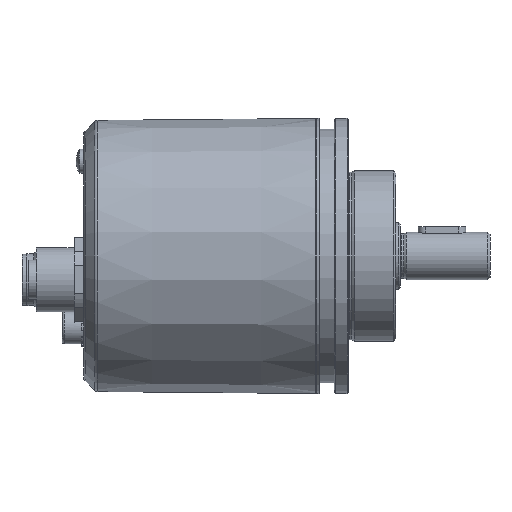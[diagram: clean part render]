
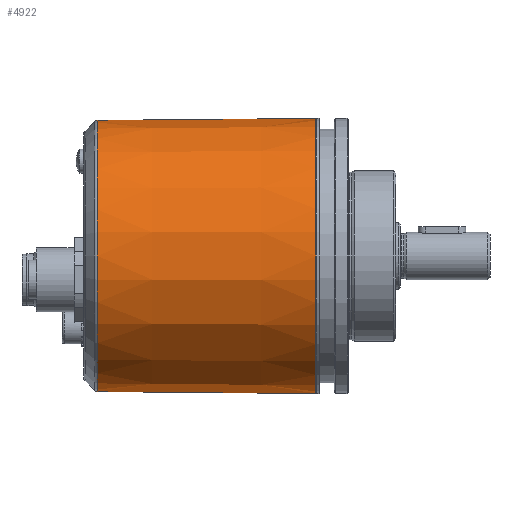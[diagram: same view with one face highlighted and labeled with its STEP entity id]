
A CAD part, left-side view. The second image highlights one B-rep face of the part: STEP entity #4922.
In plain terms, the highlighted conical face has half-angle 0.5 degrees and reference radius 29 mm.
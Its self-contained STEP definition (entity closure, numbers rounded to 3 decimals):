
#187 = LINE ( 'NONE', #5978, #2274 ) ;
#328 = CARTESIAN_POINT ( 'NONE',  ( 0., 36.7, 0. ) ) ;
#565 = CARTESIAN_POINT ( 'NONE',  ( 0., 36.7, 0. ) ) ;
#1460 = EDGE_CURVE ( 'NONE', #6102, #6702, #187, .T. ) ;
#1556 = CIRCLE ( 'NONE', #4943, 29. ) ;
#1782 = VERTEX_POINT ( 'NONE', #2192 ) ;
#2192 = CARTESIAN_POINT ( 'NONE',  ( 0., 82.786, -28.598 ) ) ;
#2274 = VECTOR ( 'NONE', #2824, 1000. ) ;
#2603 = CARTESIAN_POINT ( 'NONE',  ( 0., 36.7, 29. ) ) ;
#2806 = DIRECTION ( 'NONE',  ( 0., -1., 0. ) ) ;
#2824 = DIRECTION ( 'NONE',  ( 0., -1., 0.009 ) ) ;
#2903 = VERTEX_POINT ( 'NONE', #8141 ) ;
#2904 = EDGE_CURVE ( 'NONE', #1782, #2903, #4892, .T. ) ;
#3209 = AXIS2_PLACEMENT_3D ( 'NONE', #328, #2806, #6732 ) ;
#3413 = CIRCLE ( 'NONE', #5586, 28.598 ) ;
#3465 = CARTESIAN_POINT ( 'NONE',  ( 0., 82.786, 28.598 ) ) ;
#3605 = CARTESIAN_POINT ( 'NONE',  ( 0., 36.7, -29. ) ) ;
#3700 = EDGE_CURVE ( 'NONE', #1782, #6102, #3413, .T. ) ;
#3711 = DIRECTION ( 'NONE',  ( 0., 1., 0. ) ) ;
#3772 = DIRECTION ( 'NONE',  ( 0., 1., 0. ) ) ;
#3870 = ORIENTED_EDGE ( 'NONE', *, *, #2904, .T. ) ;
#4152 = FACE_OUTER_BOUND ( 'NONE', #6435, .T. ) ;
#4458 = CARTESIAN_POINT ( 'NONE',  ( 0., 82.786, 0. ) ) ;
#4892 = LINE ( 'NONE', #3605, #4915 ) ;
#4915 = VECTOR ( 'NONE', #7506, 1000. ) ;
#4922 = ADVANCED_FACE ( 'CONE_16', ( #4152 ), #6885, .T. ) ;
#4943 = AXIS2_PLACEMENT_3D ( 'NONE', #565, #3711, #6876 ) ;
#5276 = ORIENTED_EDGE ( 'NONE', *, *, #1460, .F. ) ;
#5586 = AXIS2_PLACEMENT_3D ( 'NONE', #4458, #3772, #8180 ) ;
#5978 = CARTESIAN_POINT ( 'NONE',  ( 0., 36.7, 29. ) ) ;
#6102 = VERTEX_POINT ( 'NONE', #3465 ) ;
#6215 = EDGE_CURVE ( 'NONE', #2903, #6702, #1556, .T. ) ;
#6435 = EDGE_LOOP ( 'NONE', ( #5276, #6737, #3870, #7338 ) ) ;
#6702 = VERTEX_POINT ( 'NONE', #2603 ) ;
#6732 = DIRECTION ( 'NONE',  ( 0., 0., -1. ) ) ;
#6737 = ORIENTED_EDGE ( 'NONE', *, *, #3700, .F. ) ;
#6876 = DIRECTION ( 'NONE',  ( 0., 0., 1. ) ) ;
#6885 = CONICAL_SURFACE ( 'NONE', #3209, 29., 0.009 ) ;
#7338 = ORIENTED_EDGE ( 'NONE', *, *, #6215, .T. ) ;
#7506 = DIRECTION ( 'NONE',  ( 0., -1., -0.009 ) ) ;
#8141 = CARTESIAN_POINT ( 'NONE',  ( 0., 36.7, -29. ) ) ;
#8180 = DIRECTION ( 'NONE',  ( 0., 0., 1. ) ) ;
